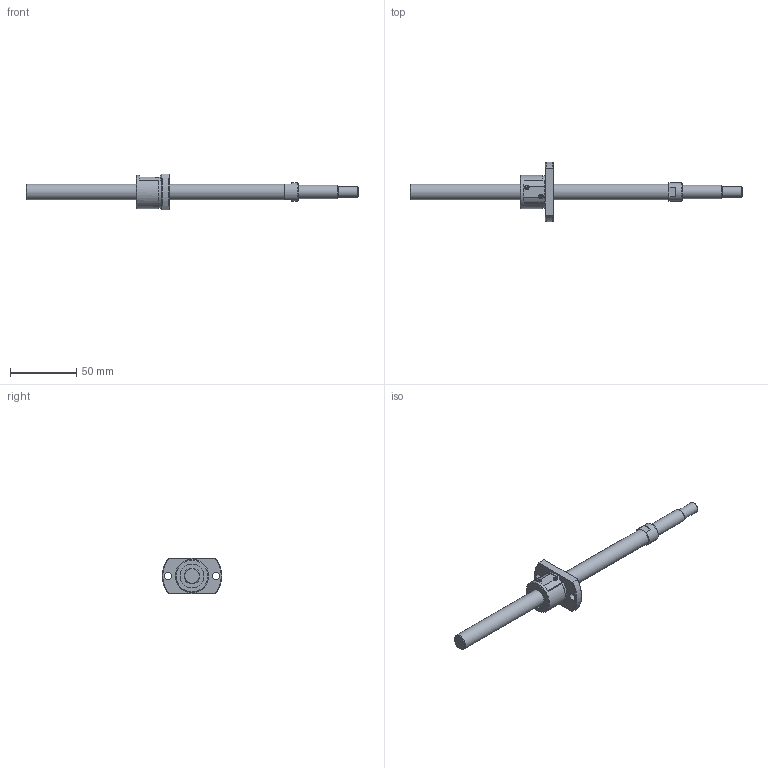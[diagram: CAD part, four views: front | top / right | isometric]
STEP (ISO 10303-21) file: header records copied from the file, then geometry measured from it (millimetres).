
FILE_DESCRIPTION( ( 'STEP AP214' ), '1' );
FILE_NAME( 'p:/temp/worker_8/2188_2204/app_90_12015063014165979719059260eae72_00_00_00_000/STEP/SG1202-191R250C3A1X_83__2_14.stp', ' ', ( ' ' ), ( ' ' ), 'PSStep 15.0.47', 'PARTsolutions', ' ' );
FILE_SCHEMA( ( 'AUTOMOTIVE_DESIGN { 1 0 10303 214 1 1 1 1 }' ) );
Length unit declared in the file: millimetre
Products named in the file (3): SG1202-191R250C3A1X(83); _SG1202-191R250C3A_shaft; _SG1202_nut
Assembly tree (2 placements, depth 2):
  SG1202-191R250C3A1X(83)
    _SG1202-191R250C3A_shaft
    _SG1202_nut
Bounding box: 250 x 45 x 27 mm (x, y, z)
Volume: 39101.7 mm3; surface area: 14800 mm2
Topology: 2 solids, 2 shells, 72 faces, 177 edges, 116 vertices
Faces by surface type: plane 35, cylinder 23, cone 13, torus 1
Full cylindrical faces by diameter (mm): 5.5 x2, 8 x1, 10 x1, 12 x2, 14 x1, 18 x2, 24.5 x1, 25 x1
Entity records: 2634 total; most frequent: CARTESIAN_POINT 409, DIRECTION 346, ORIENTED_EDGE 292, EDGE_CURVE 146, AXIS2_PLACEMENT_3D 143, EDGE_LOOP 106, VERTEX_POINT 106, FACE_OUTER_BOUND 84
